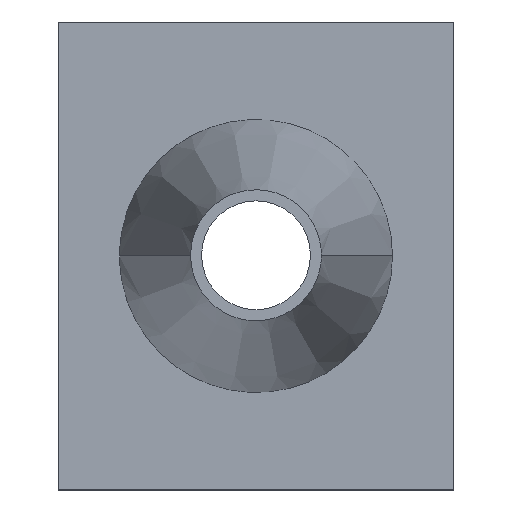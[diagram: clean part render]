
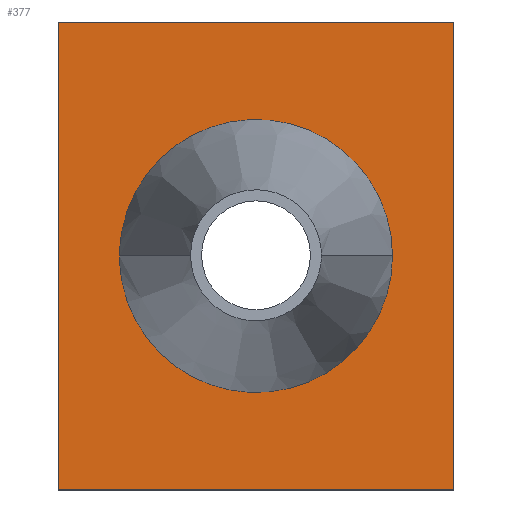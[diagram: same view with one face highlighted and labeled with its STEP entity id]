
A CAD part, top view. The second image highlights one B-rep face of the part: STEP entity #377.
In plain terms, the highlighted planar face has unit normal (0, 0, 1).
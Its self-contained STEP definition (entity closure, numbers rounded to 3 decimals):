
#167=CARTESIAN_POINT('Vertex',(0.,129.,3.)) ;
#174=CARTESIAN_POINT('Vertex',(0.,0.,3.)) ;
#177=CARTESIAN_POINT('Line Origine',(0.,64.5,3.)) ;
#198=CARTESIAN_POINT('Vertex',(109.,129.,3.)) ;
#201=CARTESIAN_POINT('Line Origine',(54.5,129.,3.)) ;
#222=CARTESIAN_POINT('Vertex',(109.,0.,3.)) ;
#225=CARTESIAN_POINT('Line Origine',(109.,64.5,3.)) ;
#242=CARTESIAN_POINT('Line Origine',(54.5,0.,3.)) ;
#324=CARTESIAN_POINT('Axis2P3D Location',(0.,0.,3.)) ;
#336=CARTESIAN_POINT('Control Point',(92.119,64.5,3.)) ;
#337=CARTESIAN_POINT('Control Point',(92.119,70.525,3.)) ;
#338=CARTESIAN_POINT('Control Point',(90.912,76.55,3.)) ;
#339=CARTESIAN_POINT('Control Point',(88.499,82.253,3.)) ;
#340=CARTESIAN_POINT('Control Point',(81.527,92.373,3.)) ;
#341=CARTESIAN_POINT('Control Point',(71.196,99.03,3.)) ;
#342=CARTESIAN_POINT('Control Point',(65.421,101.267,3.)) ;
#343=CARTESIAN_POINT('Control Point',(53.301,103.306,3.)) ;
#344=CARTESIAN_POINT('Control Point',(41.33,100.523,3.)) ;
#345=CARTESIAN_POINT('Control Point',(35.703,97.933,3.)) ;
#346=CARTESIAN_POINT('Control Point',(26.185,90.932,3.)) ;
#347=CARTESIAN_POINT('Control Point',(19.964,80.927,3.)) ;
#348=CARTESIAN_POINT('Control Point',(17.909,75.62,3.)) ;
#349=CARTESIAN_POINT('Control Point',(16.881,70.06,3.)) ;
#350=CARTESIAN_POINT('Control Point',(16.881,64.5,3.)) ;
#351=CARTESIAN_POINT('Vertex',(92.119,64.5,3.)) ;
#353=CARTESIAN_POINT('Vertex',(16.881,64.5,3.)) ;
#357=CARTESIAN_POINT('Control Point',(92.119,64.5,3.)) ;
#358=CARTESIAN_POINT('Control Point',(92.119,58.475,3.)) ;
#359=CARTESIAN_POINT('Control Point',(90.912,52.45,3.)) ;
#360=CARTESIAN_POINT('Control Point',(88.499,46.747,3.)) ;
#361=CARTESIAN_POINT('Control Point',(81.527,36.627,3.)) ;
#362=CARTESIAN_POINT('Control Point',(71.196,29.97,3.)) ;
#363=CARTESIAN_POINT('Control Point',(65.421,27.733,3.)) ;
#364=CARTESIAN_POINT('Control Point',(53.301,25.694,3.)) ;
#365=CARTESIAN_POINT('Control Point',(41.33,28.477,3.)) ;
#366=CARTESIAN_POINT('Control Point',(35.703,31.067,3.)) ;
#367=CARTESIAN_POINT('Control Point',(26.185,38.068,3.)) ;
#368=CARTESIAN_POINT('Control Point',(19.964,48.073,3.)) ;
#369=CARTESIAN_POINT('Control Point',(17.909,53.38,3.)) ;
#370=CARTESIAN_POINT('Control Point',(16.881,58.94,3.)) ;
#371=CARTESIAN_POINT('Control Point',(16.881,64.5,3.)) ;
#178=DIRECTION('Vector Direction',(0.,1.,0.)) ;
#202=DIRECTION('Vector Direction',(-1.,0.,0.)) ;
#226=DIRECTION('Vector Direction',(0.,1.,0.)) ;
#243=DIRECTION('Vector Direction',(1.,0.,0.)) ;
#325=DIRECTION('Axis2P3D Direction',(0.,0.,1.)) ;
#326=DIRECTION('Axis2P3D XDirection',(1.,0.,0.)) ;
#327=AXIS2_PLACEMENT_3D('Plane Axis2P3D',#324,#325,#326) ;
#330=ORIENTED_EDGE('',*,*,#181,.F.) ;
#331=ORIENTED_EDGE('',*,*,#246,.T.) ;
#332=ORIENTED_EDGE('',*,*,#229,.T.) ;
#333=ORIENTED_EDGE('',*,*,#205,.T.) ;
#374=ORIENTED_EDGE('',*,*,#355,.F.) ;
#375=ORIENTED_EDGE('',*,*,#372,.T.) ;
#376=FACE_BOUND('',#373,.T.) ;
#179=VECTOR('Line Direction',#178,1.) ;
#203=VECTOR('Line Direction',#202,1.) ;
#227=VECTOR('Line Direction',#226,1.) ;
#244=VECTOR('Line Direction',#243,1.) ;
#377=ADVANCED_FACE('PartBody',(#334,#376),#328,.T.) ;
#335=B_SPLINE_CURVE_WITH_KNOTS('',5,(#336,#337,#338,#339,#340,#341,#342,#343,#344,#345,#346,#347,#348,#349,#350),.UNSPECIFIED.,.F.,.U.,(6,3,3,3,6),(0.,32.43,64.865,97.3,127.228),.UNSPECIFIED.) ;
#356=B_SPLINE_CURVE_WITH_KNOTS('',5,(#357,#358,#359,#360,#361,#362,#363,#364,#365,#366,#367,#368,#369,#370,#371),.UNSPECIFIED.,.F.,.U.,(6,3,3,3,6),(0.,32.43,64.865,97.3,127.228),.UNSPECIFIED.) ;
#181=EDGE_CURVE('',#175,#168,#180,.T.) ;
#205=EDGE_CURVE('',#199,#168,#204,.T.) ;
#229=EDGE_CURVE('',#223,#199,#228,.T.) ;
#246=EDGE_CURVE('',#175,#223,#245,.T.) ;
#355=EDGE_CURVE('',#352,#354,#335,.T.) ;
#372=EDGE_CURVE('',#352,#354,#356,.T.) ;
#329=EDGE_LOOP('',(#330,#331,#332,#333)) ;
#373=EDGE_LOOP('',(#374,#375)) ;
#334=FACE_OUTER_BOUND('',#329,.T.) ;
#180=LINE('Line',#177,#179) ;
#204=LINE('Line',#201,#203) ;
#228=LINE('Line',#225,#227) ;
#245=LINE('Line',#242,#244) ;
#328=PLANE('',#327) ;
#168=VERTEX_POINT('',#167) ;
#175=VERTEX_POINT('',#174) ;
#199=VERTEX_POINT('',#198) ;
#223=VERTEX_POINT('',#222) ;
#352=VERTEX_POINT('',#351) ;
#354=VERTEX_POINT('',#353) ;
